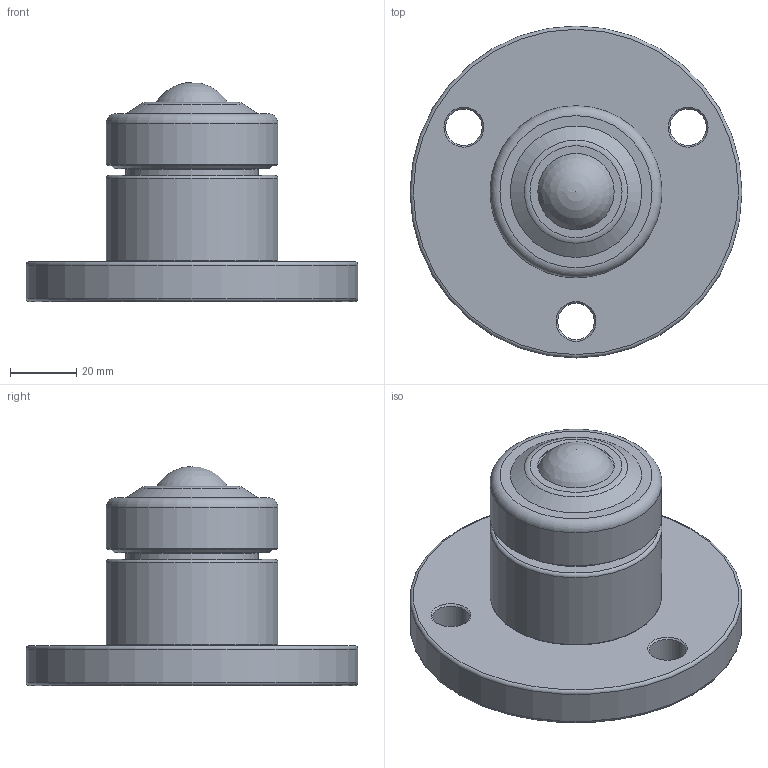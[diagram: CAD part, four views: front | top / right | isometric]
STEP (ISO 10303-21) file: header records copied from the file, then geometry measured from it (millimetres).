
FILE_DESCRIPTION(/* description */ (''),/* implementation_level */ '2;1');
FILE_NAME(/* name */ 'Z:\34-Tei\web 3Dデータ\19-IS-BF型\IS-25BF.stp',/* time_stamp */ '2015-01-09T17:45:54+09:00',/* author */ ('yamaki'),/* organization */ (''),/* preprocessor_version */ 'ST-DEVELOPER v15.6',/* originating_system */ 'Autodesk Inventor 2015',/* authorisation */ '');
FILE_SCHEMA (('AUTOMOTIVE_DESIGN { 1 0 10303 214 3 1 1 }'));
Length unit declared in the file: millimetre
Products named in the file (4): 0525AT-01; 0525AT-02; 0625AT-01; IS-25BF
Bounding box: 100 x 100 x 66 mm (x, y, z)
Volume: 178635.7 mm3; surface area: 43084 mm2
Topology: 3 solids, 3 shells, 66 faces, 130 edges, 80 vertices
Faces by surface type: plane 20, cylinder 16, cone 16, torus 13, sphere 1
Full cylindrical faces by diameter (mm): 11 x3, 16 x1, 16.5 x1, 25 x1, 27 x1, 40 x1, 41 x1, 47 x1, 48.376 x1, 48.8 x1, 50 x1, 51.8 x2, 100 x1
Entity records: 1520 total; most frequent: DIRECTION 288, CARTESIAN_POINT 233, ORIENTED_EDGE 158, AXIS2_PLACEMENT_3D 140, EDGE_LOOP 130, EDGE_CURVE 79, VERTEX_POINT 73, CIRCLE 67
